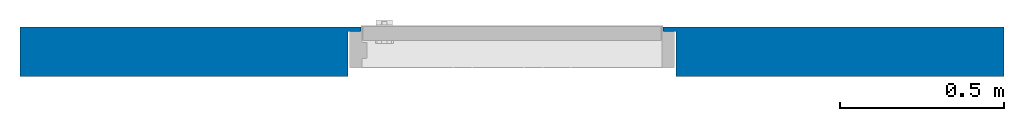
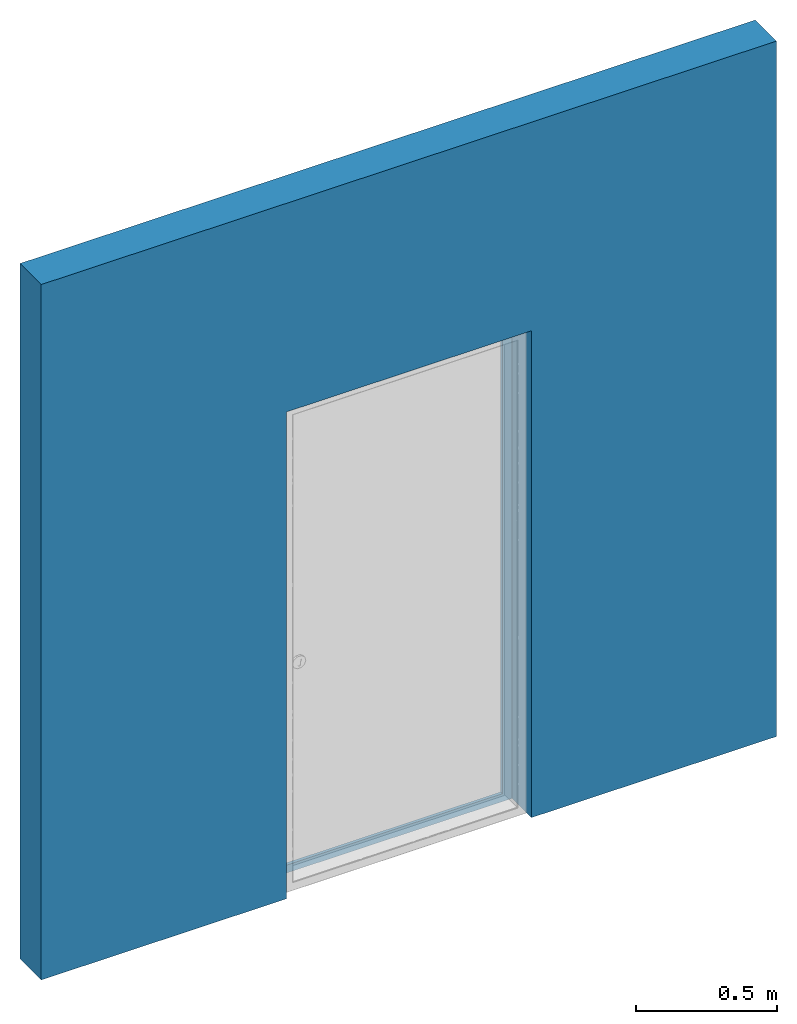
# One storey, incomplete: 1 wall, 1 opening.
"""IFC2X3 building model written with IfcOpenShell, lengths in millimetres."""

import ifcopenshell
import ifcopenshell.guid

model = None  # the IFC model being written
_history = None  # IfcOwnerHistory: only IFC2X3 demands one
_inside = {}  # id of a spatial element -> (the spatial element, [elements in it])
_under = {}  # id of a project, library or spatial element -> (it, [spatial elements below it])
_declared = {}  # id of a project -> (the project, [libraries it declares])
_typed = {}  # id of a type object -> (the type object, [elements of that type])
_made_of = {}  # id of a material, layer set ... -> (it, [elements and type objects made of it])


def new_model(schema):
    """Start an empty IFC model of exactly this schema.

    Asked for "IFC4X3", IfcOpenShell would pick the latest addendum, in which some entities
    have other attributes; the version numbers below select the first issue.
    IFC2X3 requires an IfcOwnerHistory on every rooted entity: one is made here for all.
    """
    global model, _history
    if schema == "IFC4X3":
        model = ifcopenshell.file(schema_version=(4, 3, 0, 0))
    else:
        model = ifcopenshell.file(schema=schema)
    _inside.clear()
    _under.clear()
    _declared.clear()
    _typed.clear()
    _made_of.clear()
    _history = None
    if model.schema == "IFC2X3":
        org = make("IfcOrganization", Name="unknown")
        user = make(
            "IfcPersonAndOrganization",
            ThePerson=make("IfcPerson", FamilyName="unknown"),
            TheOrganization=org,
        )
        app = make(
            "IfcApplication",
            ApplicationDeveloper=org,
            Version="unknown",
            ApplicationFullName="unknown",
            ApplicationIdentifier="unknown",
        )
        _history = make(
            "IfcOwnerHistory",
            OwningUser=user,
            OwningApplication=app,
            ChangeAction="ADDED",
            CreationDate=0,
        )
    return model


def make(cls, **values):
    """One entity of the class cls with the attributes given. An attribute that is None is left unset."""
    return model.create_entity(
        cls, **{name: value for name, value in values.items() if value is not None}
    )


def entity(cls, *values):
    """Any entity or typed value of the class cls, its attributes in the order of the schema. None: left unset."""
    e = model.create_entity(cls)
    for i, value in enumerate(values):
        if value is not None:
            e[i] = value
    return e


def rooted(cls, **values):
    """An entity with a GlobalId (a new one), such as an element, a storey or a relation."""
    return make(cls, GlobalId=ifcopenshell.guid.new(), OwnerHistory=_history, **values)


def si_unit(unit_type, name, prefix=None):
    """IfcSIUnit, for example si_unit("LENGTHUNIT", "METRE", prefix="MILLI")."""
    return make("IfcSIUnit", UnitType=unit_type, Prefix=prefix, Name=name)


def converted_unit(unit_type, name, factor, base, dimensions=None, offset=None):
    """IfcConversionBasedUnit, such as the inch: factor (a typed value) times the base unit."""
    return make(
        "IfcConversionBasedUnit"
        if offset is None
        else "IfcConversionBasedUnitWithOffset",
        ConversionOffset=offset,
        Dimensions=None
        if dimensions is None
        else entity("IfcDimensionalExponents", *dimensions),
        UnitType=unit_type,
        Name=name,
        ConversionFactor=make(
            "IfcMeasureWithUnit", ValueComponent=factor, UnitComponent=base
        ),
    )


def derived_unit(unit_type, elements):
    """IfcDerivedUnit: a product of units, each with its exponent."""
    return make(
        "IfcDerivedUnit",
        Elements=[
            make("IfcDerivedUnitElement", Unit=unit, Exponent=power)
            for unit, power in elements
        ],
        UnitType=unit_type,
    )


def assignment(units):
    """IfcUnitAssignment: the units of a project."""
    return None if units is None else make("IfcUnitAssignment", Units=units)


def point(xyz):
    """IfcCartesianPoint."""
    return None if xyz is None else make("IfcCartesianPoint", Coordinates=xyz)


def direction(xyz):
    """IfcDirection."""
    return None if xyz is None else make("IfcDirection", DirectionRatios=xyz)


def frame(location, z_axis=None, x_axis=None):
    """IfcAxis2Placement3D, a coordinate frame: its origin and axes. An axis left out is left unset."""
    return make(
        "IfcAxis2Placement3D",
        Location=point(location),
        Axis=direction(z_axis),
        RefDirection=direction(x_axis),
    )


def frame_2d(location, x_axis=None):
    """IfcAxis2Placement2D, a coordinate frame in the plane: its origin and x axis."""
    return make(
        "IfcAxis2Placement2D", Location=point(location), RefDirection=direction(x_axis)
    )


def origin():
    """The frame at (0, 0, 0) with its axes left unset."""
    return frame((0.0, 0.0, 0.0))


def place(relative_to, where):
    """IfcLocalPlacement: puts the frame where relative to a parent placement (None: the world)."""
    return make(
        "IfcLocalPlacement", PlacementRelTo=relative_to, RelativePlacement=where
    )


def context(
    kind, dimensions, precision=None, world=None, true_north=None, identifier=None
):
    """IfcGeometricRepresentationContext, for example the 3D "Model" context."""
    return make(
        "IfcGeometricRepresentationContext",
        ContextIdentifier=identifier,
        ContextType=kind,
        CoordinateSpaceDimension=dimensions,
        Precision=precision,
        WorldCoordinateSystem=world,
        TrueNorth=true_north,
    )


def subcontext(parent, identifier, kind, view, scale=None):
    """IfcGeometricRepresentationSubContext, for example "Body" below "Model"."""
    return make(
        "IfcGeometricRepresentationSubContext",
        ContextIdentifier=identifier,
        ContextType=kind,
        ParentContext=parent,
        TargetScale=scale,
        TargetView=view,
    )


def project(units=None, contexts=None):
    """IfcProject with its units and contexts."""
    return rooted(
        "IfcProject",
        Name="project",
        RepresentationContexts=contexts,
        UnitsInContext=assignment(units),
    )


def spatial(cls, under=None, at=None, **own):
    """A site, building, storey or space (cls), placed at a placement, below another one or the project."""
    s = rooted(cls, ObjectPlacement=at, **own)
    if under is not None:
        _under.setdefault(under.id(), (under, []))[1].append(s)
    return s


def profile(cls, at=None, kind="AREA", **sizes):
    """A parametric profile (cls). Its sizes go by their IFC names, for example OverallWidth=200.0."""
    return make(cls, ProfileType=kind, Position=at, **sizes)


def rectangle(**sizes):
    """IfcRectangleProfileDef."""
    return profile("IfcRectangleProfileDef", **sizes)


def extrude(swept, where, along, depth):
    """IfcExtrudedAreaSolid: the profile swept, set in the frame where, extruded along a direction by depth."""
    return make(
        "IfcExtrudedAreaSolid",
        SweptArea=swept,
        Position=where,
        ExtrudedDirection=direction(along),
        Depth=depth,
    )


def faces_of(points, faces, orient=None, outer=None):
    """IfcFace entities. A face is a list of loops; a loop is a list of indices into points, from 0.

    orient and outer hold one flag for each loop. By default every Orientation is true, the
    first loop of a face is its IfcFaceOuterBound and the others are IfcFaceBound.
    """
    made = []
    for i, loops in enumerate(faces):
        bounds = []
        for j, loop in enumerate(loops):
            is_outer = j == 0 if outer is None else outer[i][j]
            bounds.append(
                make(
                    "IfcFaceOuterBound" if is_outer else "IfcFaceBound",
                    Bound=make("IfcPolyLoop", Polygon=[points[k] for k in loop]),
                    Orientation=True if orient is None else orient[i][j],
                )
            )
        made.append(make("IfcFace", Bounds=bounds))
    return made


def faceted_brep(points, faces, orient=None, outer=None, voids=None):
    """IfcFacetedBrep: a solid bounded by flat faces; with voids (closed shells), ...WithVoids."""
    shared = [point(p) for p in points]
    hull = make("IfcClosedShell", CfsFaces=faces_of(shared, faces, orient, outer))
    if voids is None:
        return make("IfcFacetedBrep", Outer=hull)
    return make(
        "IfcFacetedBrepWithVoids",
        Outer=hull,
        Voids=[
            make(cls, CfsFaces=faces_of(shared, fs, o, b)) for cls, fs, o, b in voids
        ],
    )


def shape(context_of_items, identifier, shape_type, items):
    """IfcShapeRepresentation: the items that make up one representation, for example the "Body"."""
    return make(
        "IfcShapeRepresentation",
        ContextOfItems=context_of_items,
        RepresentationIdentifier=identifier,
        RepresentationType=shape_type,
        Items=items,
    )


def material(Name=None, Category=None):
    """IfcMaterial."""
    return make("IfcMaterial", Name=Name, Category=Category)


def layer(
    of_material, thickness, ventilated=None, Name=None, Category=None, Priority=None
):
    """IfcMaterialLayer: one layer of a wall or slab, of a material (None: an air gap)."""
    return make(
        "IfcMaterialLayer",
        Material=of_material,
        LayerThickness=thickness,
        IsVentilated=ventilated,
        Name=Name,
        Category=Category,
        Priority=Priority,
    )


def layer_set(layers, Name=None):
    """IfcMaterialLayerSet."""
    return make("IfcMaterialLayerSet", MaterialLayers=layers, LayerSetName=Name)


def layer_usage(for_layer_set, set_direction, sense, offset, extent=None):
    """IfcMaterialLayerSetUsage: how a layer set lies in its element."""
    return make(
        "IfcMaterialLayerSetUsage",
        ForLayerSet=for_layer_set,
        LayerSetDirection=set_direction,
        DirectionSense=sense,
        OffsetFromReferenceLine=offset,
        ReferenceExtent=extent,
    )


def made_of(thing, what):
    """Note that an element or type object is made of a material, layer set ...; save() writes the relation."""
    if what is not None:
        _made_of.setdefault(what.id(), (what, []))[1].append(thing)
    return thing


def type_object(cls, material=None, **own):
    """A type object (cls), such as IfcWallType, which elements share."""
    return made_of(rooted(cls, **own), material)


def element(
    cls,
    number,
    at=None,
    inside=None,
    cuts=None,
    type_object=None,
    material=None,
    context=None,
    identifier="Body",
    shape_type=None,
    held_by="IfcProductDefinitionShape",
    body=None,
    shapes=None,
    **own,
):
    """One element of the class cls, such as IfcWall. Its Tag is "e" and its number.

    at: its placement. inside: the storey or other place that contains it. cuts: it is an
    opening in that element (IfcRelVoidsElement). A single representation is given by context,
    identifier, shape_type and body (its items); several are given by shapes. held_by: the class
    of the entity that holds the representations. save() writes the other relations.
    """
    e = rooted(cls, Tag="e%d" % number, ObjectPlacement=at, **own)
    if body is not None:
        shapes = [shape(context, identifier, shape_type, body)]
    if shapes is not None:
        e.Representation = make(held_by, Representations=shapes)
    if inside is not None:
        _inside.setdefault(inside.id(), (inside, []))[1].append(e)
    if cuts is not None:
        rooted(
            "IfcRelVoidsElement", RelatingBuildingElement=cuts, RelatedOpeningElement=e
        )
    if type_object is not None:
        _typed.setdefault(type_object.id(), (type_object, []))[1].append(e)
    return made_of(e, material)


def aggregate(whole, parts):
    """IfcRelAggregates: a whole, such as a stair, and the parts it consists of."""
    return rooted("IfcRelAggregates", RelatingObject=whole, RelatedObjects=parts)


def save(model, path):
    """Write the relations noted so far, then the file.

    IfcRelAggregates (storeys below a building ...), IfcRelContainedInSpatialStructure (elements
    in a storey), IfcRelDefinesByType, IfcRelAssociatesMaterial and IfcRelDeclares: one each for
    every whole, place, type object, material and project.
    """
    for whole, parts in _under.values():
        aggregate(whole, parts)
    for where, things in _inside.values():
        rooted(
            "IfcRelContainedInSpatialStructure",
            RelatedElements=things,
            RelatingStructure=where,
        )
    for kind, things in _typed.values():
        rooted("IfcRelDefinesByType", RelatedObjects=things, RelatingType=kind)
    for what, things in _made_of.values():
        rooted("IfcRelAssociatesMaterial", RelatedObjects=things, RelatingMaterial=what)
    for by, libraries in _declared.values():
        rooted("IfcRelDeclares", RelatingContext=by, RelatedDefinitions=libraries)
    model.write(path)


model = new_model("IFC2X3")

# Units and contexts
model_context = context("Model", 3, precision=0.01, world=origin(), true_north=direction((6.12303176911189e-17, 1.0)))
body_context = subcontext(model_context, "Body", "Model", "MODEL_VIEW")
ifc_project = project(units=[si_unit("LENGTHUNIT", "METRE", prefix="MILLI"), si_unit("AREAUNIT", "SQUARE_METRE"), si_unit("VOLUMEUNIT", "CUBIC_METRE"), converted_unit("PLANEANGLEUNIT", "DEGREE", entity("IfcRatioMeasure", 0.0174532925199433), si_unit("PLANEANGLEUNIT", "RADIAN"), dimensions=[0, 0, 0, 0, 0, 0, 0]), si_unit("MASSUNIT", "GRAM", prefix="KILO"), si_unit("TIMEUNIT", "SECOND"), si_unit("FREQUENCYUNIT", "HERTZ"), si_unit("THERMODYNAMICTEMPERATUREUNIT", "DEGREE_CELSIUS"), derived_unit("THERMALTRANSMITTANCEUNIT", [(si_unit("MASSUNIT", "GRAM", prefix="KILO"), 1), (si_unit("THERMODYNAMICTEMPERATUREUNIT", "KELVIN"), -1), (si_unit("TIMEUNIT", "SECOND"), -3)]), derived_unit("VOLUMETRICFLOWRATEUNIT", [(si_unit("LENGTHUNIT", "METRE"), 3), (si_unit("TIMEUNIT", "SECOND"), -1)]), si_unit("ELECTRICCURRENTUNIT", "AMPERE"), si_unit("ELECTRICVOLTAGEUNIT", "VOLT"), si_unit("POWERUNIT", "WATT"), si_unit("FORCEUNIT", "NEWTON", prefix="KILO"), si_unit("ILLUMINANCEUNIT", "LUX"), si_unit("LUMINOUSFLUXUNIT", "LUMEN"), si_unit("LUMINOUSINTENSITYUNIT", "CANDELA"), si_unit("PRESSUREUNIT", "PASCAL")], contexts=[model_context])

# Site, building, storey
site_placement = place(None, origin())
site = spatial("IfcSite", under=ifc_project, at=site_placement, Name="Default", CompositionType="ELEMENT")
building_placement = place(site_placement, origin())
building = spatial("IfcBuilding", under=site, at=building_placement, CompositionType="ELEMENT")
storey_placement = place(building_placement, origin())
storey = spatial("IfcBuildingStorey", under=building, at=storey_placement, Name="Level 1", CompositionType="ELEMENT", Elevation=0.0)

# Wall, opening
ifc_material = material(Name="nbl_Concept")
ifc_layer = layer(ifc_material, 150.0)
ifc_layer_set = layer_set([ifc_layer], Name="Basic Wall:NBS_Int_Concept")
ifc_layer_usage = layer_usage(ifc_layer_set, "AXIS2", "POSITIVE", -75.0)
wall_type = type_object("IfcWallType", Name="Basic Wall:NBS_Int_Concept", PredefinedType="STANDARD", material=ifc_layer_set)
wall_placement = place(storey_placement, frame((-1500.0, 0.0, 0.0)))
wall = element("IfcWallStandardCase", 1, at=wall_placement, inside=storey, type_object=wall_type, material=ifc_layer_usage, Name="Basic Wall:NBS_Int_Concept:2301", ObjectType="Basic Wall:NBS_Int_Concept:2340", context=body_context, shape_type="SweptSolid", body=[
    extrude(rectangle(XDim=3000.0, YDim=150.0, at=frame_2d((1500.0, 0.0), x_axis=(-1.0, 0.0))), origin(), (0.0, 0.0, 1.0), 3000.0),
])
opening_placement = place(wall_placement, frame((1500.0, 0.0, 0.0)))
element("IfcOpeningElement", 2, at=opening_placement, cuts=wall, Name="Basic Wall:NBS_Int_Concept:2301", ObjectType="Opening", context=body_context, shape_type="Brep", body=[
    faceted_brep([(460.995380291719, 80.0, 2066.0), (460.995380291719, 80.0, 34.0), (-460.996616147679, 80.0, 34.0), (-460.996616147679, 80.0, 2066.0), (-460.996616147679, 62.0, 2066.0), (460.995380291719, 62.0, 2066.0), (-460.996616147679, 62.0, 34.0), (460.995380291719, 62.0, 34.0), (500.0, 62.0, 2100.0), (500.0, 62.0, 0.0), (-500.0, 62.0, 0.0), (-500.0, 62.0, 2100.0), (500.0, -75.0, 2100.0), (-500.0, -75.0, 2100.0), (-500.0, -75.0, 0.0), (500.0, -75.0, 0.0)], [[[0, 1, 2, 3]], [[3, 4, 5, 0]], [[2, 6, 4, 3]], [[1, 7, 6, 2]], [[0, 5, 7, 1]], [[8, 9, 10, 11], [4, 6, 7, 5]], [[12, 13, 14, 15]], [[11, 13, 12, 8]], [[10, 14, 13, 11]], [[9, 15, 14, 10]], [[8, 12, 15, 9]]]),
])

save(model, "model.ifc")
